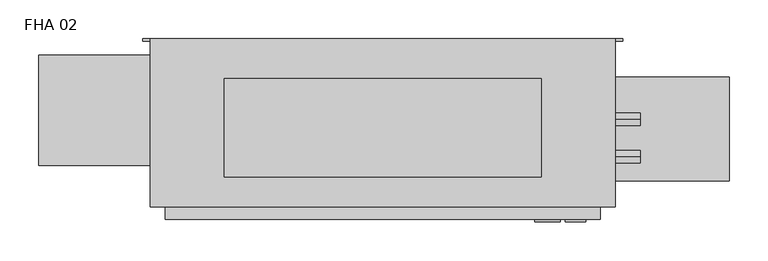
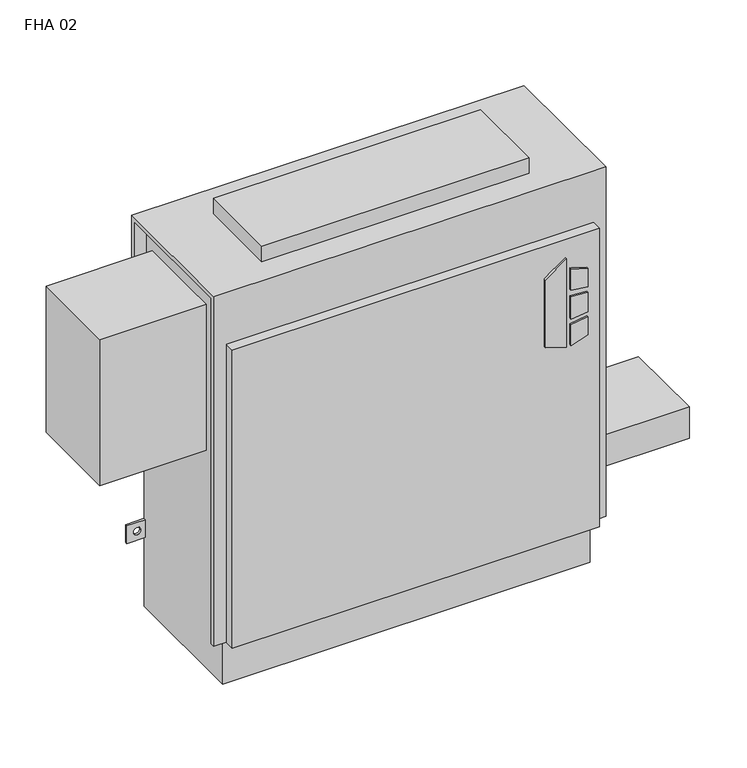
"""IFC4 building model written with IfcOpenShell, lengths in millimetres: proxy geometry, Vertical_Fan_Coil_Unit_-_FHA_-_IEC_-_2-Pipe_TS-FR_RH_2022 : FHA 02."""

from ifc_helpers import new_model, si_unit, point, frame, frame_2d, origin, place, context, project, spatial, polyline, circle_curve, trimmed, segment, composite_curve, outline, extrude, source, transform, mapped, element, save
from ifc_brep_helpers import plane_surface, revolved_surface, advanced_brep


def fha_02_b8cbda28(model_context):
    return source(origin(), model_context, "Body", "SolidModel", [
        extrude(outline(polyline([(391.6086829, 347.7368862), (381.6606126, 379.9102728), (523.831537, 379.9102728), (500.8095309, 347.7368862), (391.6086829, 347.7368862)])), frame((0.0, 9.525, 0.0), z_axis=(0.0, 1.0, 0.0), x_axis=(0.0, 0.0, 1.0)), (0.0, 0.0, 1.0), 3.175),
        extrude(outline(polyline([(470.6079683, 386.6686058), (467.4055757, 412.75), (496.6344168, 412.75), (504.6988318, 386.6686058), (470.6079683, 386.6686058)])), frame((0.0, 9.525, 0.0), z_axis=(0.0, 1.0, 0.0), x_axis=(0.0, 0.0, 1.0)), (0.0, 0.0, 1.0), 3.175),
        extrude(outline(polyline([(418.7444414, 412.75), (415.0789404, 386.6686058), (381.6606126, 386.6686058), (390.2948498, 412.75), (418.7444414, 412.75)])), frame((0.0, 9.525, 0.0), z_axis=(0.0, 1.0, 0.0), x_axis=(0.0, 0.0, 1.0)), (0.0, 0.0, 1.0), 3.175),
        extrude(outline(polyline([(458.0596028, 412.75), (460.3414292, 386.6686058), (424.4038806, 386.6686058), (427.1451456, 412.75), (458.0596028, 412.75)])), frame((0.0, 9.525, 0.0), z_axis=(0.0, 1.0, 0.0), x_axis=(0.0, 0.0, 1.0)), (0.0, 0.0, 1.0), 3.175),
        extrude(outline(composite_curve([segment(trimmed(circle_curve(frame_2d((495.3, 128.5875)), 9.525), [point((485.775, 128.5875))], [point((504.825, 128.5875))], False, "CARTESIAN"), True, "CONTINUOUS"), segment(trimmed(circle_curve(frame_2d((495.3, 128.5875)), 9.525), [point((504.825, 128.5875))], [point((485.775, 128.5875))], False, "CARTESIAN"), True, "CONTINUOUS")], self_intersect=False)), frame((0.0, 0.0, 101.6), z_axis=(0.0, 0.0, 1.0), x_axis=(1.0, 0.0, 0.0)), (0.0, 0.0, 1.0), 25.4),
        extrude(outline(polyline([(596.9, 195.2625), (596.9, 61.9125), (431.8, 61.9125), (431.8, 195.2625), (596.9, 195.2625)])), frame((0.0, 0.0, 127.0), z_axis=(0.0, 0.0, 1.0), x_axis=(1.0, 0.0, 0.0)), (0.0, 0.0, 1.0), 50.8),
        extrude(outline(polyline([(355.6, 193.675), (355.6, 66.675), (-50.8, 66.675), (-50.8, 193.675), (355.6, 193.675)])), frame((0.0, 0.0, 635.0), z_axis=(0.0, 0.0, 1.0), x_axis=(1.0, 0.0, 0.0)), (0.0, 0.0, 1.0), 25.4),
        extrude(outline(composite_curve([segment(trimmed(circle_curve(frame_2d((93.1926, 488.0102)), 7.9375), [point((93.1926, 480.0727))], [point((93.1926, 495.9477))], False, "CARTESIAN"), True, "CONTINUOUS"), segment(trimmed(circle_curve(frame_2d((93.1926, 488.0102)), 7.9375), [point((93.1926, 495.9477))], [point((93.1926, 480.0727))], False, "CARTESIAN"), True, "CONTINUOUS")], self_intersect=False)), frame((431.8, 0.0, 0.0), z_axis=(1.0, 0.0, 0.0), x_axis=(0.0, 1.0, 0.0)), (0.0, 0.0, 1.0), 50.8),
        extrude(outline(composite_curve([segment(trimmed(circle_curve(frame_2d((141.3002, 461.3402)), 7.9375), [point((141.3002, 453.4027))], [point((141.3002, 469.2777))], False, "CARTESIAN"), True, "CONTINUOUS"), segment(trimmed(circle_curve(frame_2d((141.3002, 461.3402)), 7.9375), [point((141.3002, 469.2777))], [point((141.3002, 453.4027))], False, "CARTESIAN"), True, "CONTINUOUS")], self_intersect=False)), frame((431.8, 0.0, 0.0), z_axis=(1.0, 0.0, 0.0), x_axis=(0.0, 1.0, 0.0)), (0.0, 0.0, 1.0), 50.8),
        extrude(outline(polyline([(-288.925, 223.266), (-127.0, 223.266), (-127.0, 81.534), (-288.925, 81.534), (-288.925, 223.266)])), frame((0.0, 0.0, 349.25), z_axis=(0.0, 0.0, 1.0), x_axis=(1.0, 0.0, 0.0)), (0.0, 0.0, 1.0), 234.95),
        advanced_brep(
        [(450.85, 244.475, 635.0), (-146.05, 244.475, 635.0), (-146.05, 28.575, 635.0), (450.85, 28.575, 635.0), (-127.0, 244.475, 0.0), (431.8, 244.475, 0.0), (431.8, 38.1, 0.0), (-127.0, 38.1, 0.0), (450.85, 244.475, 558.8), (431.8, 244.475, 558.8), (431.8, 244.475, 414.3375), (460.375, 244.475, 414.3375), (460.375, 244.475, 385.7625), (431.8, 244.475, 385.7625), (431.8, 244.475, 287.3375), (460.375, 244.475, 287.3375), (460.375, 244.475, 258.7625), (431.8, 244.475, 258.7625), (431.8, 244.475, 141.2875), (460.375, 244.475, 141.2875), (460.375, 244.475, 112.7125), (431.8, 244.475, 112.7125), (-127.0, 244.475, 112.7125), (-155.575, 244.475, 112.7125), (-155.575, 244.475, 141.2875), (-127.0, 244.475, 141.2875), (-127.0, 244.475, 258.7625), (-155.575, 244.475, 258.7625), (-155.575, 244.475, 287.3375), (-127.0, 244.475, 287.3375), (-127.0, 244.475, 385.7625), (-155.575, 244.475, 385.7625), (-155.575, 244.475, 414.3375), (-127.0, 244.475, 414.3375), (-127.0, 244.475, 558.8), (-146.05, 244.475, 558.8), (450.0626, 244.475, 127.0), (438.9374, 244.475, 127.0), (-134.1374, 244.475, 127.0), (-145.2626, 244.475, 127.0), (450.0626, 244.475, 273.05), (438.9374, 244.475, 273.05), (-134.1374, 244.475, 273.05), (-145.2626, 244.475, 273.05), (450.0626, 244.475, 400.05), (438.9374, 244.475, 400.05), (-134.1374, 244.475, 400.05), (-145.2626, 244.475, 400.05), (-146.05, 238.125, 558.8), (-146.05, 238.125, 628.65), (-146.05, 34.925, 628.65), (-146.05, 34.925, 73.025), (-146.05, 28.575, 73.025), (431.8, 12.7, 552.45), (-127.0, 12.7, 552.45), (-127.0, 12.7, 73.025), (431.8, 12.7, 73.025), (450.85, 28.575, 73.025), (450.85, 34.925, 73.025), (450.85, 34.925, 628.65), (450.85, 238.125, 628.65), (450.85, 238.125, 558.8), (-127.0, 28.575, 73.025), (-127.0, 28.575, 552.45), (431.8, 28.575, 552.45), (431.8, 28.575, 73.025), (-127.0, 34.925, 73.025), (-127.0, 38.1, 73.025), (431.8, 38.1, 73.025), (431.8, 34.925, 73.025), (431.8, 241.3, 112.7125), (431.8, 241.3, 141.2875), (431.8, 241.3, 258.7625), (431.8, 241.3, 287.3375), (431.8, 241.3, 385.7625), (431.8, 241.3, 414.3375), (431.8, 238.125, 558.8), (431.8, 238.125, 628.65), (431.8, 34.925, 628.65), (-127.0, 34.925, 628.65), (-127.0, 238.125, 628.65), (-127.0, 238.125, 558.8), (-127.0, 241.3, 414.3375), (-127.0, 241.3, 385.7625), (-127.0, 241.3, 287.3375), (-127.0, 241.3, 258.7625), (-127.0, 241.3, 141.2875), (-127.0, 241.3, 112.7125), (460.375, 241.3, 112.7125), (460.375, 241.3, 141.2875), (438.9374, 241.3, 127.0), (450.0626, 241.3, 127.0), (460.375, 241.3, 258.7625), (460.375, 241.3, 287.3375), (438.9374, 241.3, 273.05), (450.0626, 241.3, 273.05), (460.375, 241.3, 385.7625), (460.375, 241.3, 414.3375), (438.9374, 241.3, 400.05), (450.0626, 241.3, 400.05), (-155.575, 241.3, 141.2875), (-155.575, 241.3, 112.7125), (-145.2626, 241.3, 127.0), (-134.1374, 241.3, 127.0), (-155.575, 241.3, 287.3375), (-155.575, 241.3, 258.7625), (-145.2626, 241.3, 273.05), (-134.1374, 241.3, 273.05), (-155.575, 241.3, 414.3375), (-155.575, 241.3, 385.7625), (-145.2626, 241.3, 400.05), (-134.1374, 241.3, 400.05)],
        [
            (0, 1),
            (1, 2),
            (2, 3),
            (3, 0),
            (4, 5),
            (5, 6),
            (6, 7),
            (7, 4),
            (0, 8),
            (8, 9),
            (9, 10),
            (10, 11),
            (11, 12),
            (12, 13),
            (13, 14),
            (14, 15),
            (15, 16),
            (16, 17),
            (17, 18),
            (18, 19),
            (19, 20),
            (20, 21),
            (21, 5),
            (4, 22),
            (22, 23),
            (23, 24),
            (24, 25),
            (25, 26),
            (26, 27),
            (27, 28),
            (28, 29),
            (29, 30),
            (30, 31),
            (31, 32),
            (32, 33),
            (33, 34),
            (34, 35),
            (35, 1),
            (36, 37, circle_curve(frame((444.5, 244.475, 127.0), z_axis=(0.0, -1.0, 0.0), x_axis=(-1.0, 0.0, 0.0)), 5.5626)),
            (37, 36, circle_curve(frame((444.5, 244.475, 127.0), z_axis=(0.0, -1.0, 0.0), x_axis=(-1.0, 0.0, 0.0)), 5.5626)),
            (38, 39, circle_curve(frame((-139.7, 244.475, 127.0), z_axis=(0.0, -1.0, 0.0), x_axis=(-1.0, 0.0, 0.0)), 5.5626)),
            (39, 38, circle_curve(frame((-139.7, 244.475, 127.0), z_axis=(0.0, -1.0, 0.0), x_axis=(-1.0, 0.0, 0.0)), 5.5626)),
            (40, 41, circle_curve(frame((444.5, 244.475, 273.05), z_axis=(0.0, -1.0, 0.0), x_axis=(-1.0, 0.0, 0.0)), 5.5626)),
            (41, 40, circle_curve(frame((444.5, 244.475, 273.05), z_axis=(0.0, -1.0, 0.0), x_axis=(-1.0, 0.0, 0.0)), 5.5626)),
            (42, 43, circle_curve(frame((-139.7, 244.475, 273.05), z_axis=(0.0, -1.0, 0.0), x_axis=(-1.0, 0.0, 0.0)), 5.5626)),
            (43, 42, circle_curve(frame((-139.7, 244.475, 273.05), z_axis=(0.0, -1.0, 0.0), x_axis=(-1.0, 0.0, 0.0)), 5.5626)),
            (44, 45, circle_curve(frame((444.5, 244.475, 400.05), z_axis=(0.0, -1.0, 0.0), x_axis=(-1.0, 0.0, 0.0)), 5.5626)),
            (45, 44, circle_curve(frame((444.5, 244.475, 400.05), z_axis=(0.0, -1.0, 0.0), x_axis=(-1.0, 0.0, 0.0)), 5.5626)),
            (46, 47, circle_curve(frame((-139.7, 244.475, 400.05), z_axis=(0.0, -1.0, 0.0), x_axis=(-1.0, 0.0, 0.0)), 5.5626)),
            (47, 46, circle_curve(frame((-139.7, 244.475, 400.05), z_axis=(0.0, -1.0, 0.0), x_axis=(-1.0, 0.0, 0.0)), 5.5626)),
            (35, 48),
            (48, 49),
            (49, 50),
            (50, 51),
            (51, 52),
            (52, 2),
            (53, 54),
            (54, 55),
            (55, 56),
            (56, 53),
            (3, 57),
            (57, 58),
            (58, 59),
            (59, 60),
            (60, 61),
            (61, 8),
            (52, 62),
            (62, 63),
            (63, 64),
            (64, 65),
            (65, 57),
            (53, 64),
            (63, 54),
            (55, 62),
            (51, 66),
            (66, 67),
            (67, 68),
            (68, 69),
            (69, 58),
            (65, 56),
            (6, 68),
            (67, 7),
            (21, 70),
            (70, 71),
            (71, 18),
            (17, 72),
            (72, 73),
            (73, 14),
            (13, 74),
            (74, 75),
            (75, 10),
            (9, 76),
            (76, 77),
            (77, 78),
            (78, 69),
            (66, 79),
            (79, 80),
            (80, 81),
            (81, 34),
            (33, 82),
            (82, 83),
            (83, 30),
            (29, 84),
            (84, 85),
            (85, 26),
            (25, 86),
            (86, 87),
            (87, 22),
            (76, 61),
            (60, 77),
            (78, 59),
            (50, 79),
            (81, 48),
            (80, 49),
            (70, 88),
            (88, 89),
            (89, 71),
            (90, 91, circle_curve(frame((444.5, 241.3, 127.0), z_axis=(0.0, 1.0, 0.0), x_axis=(-1.0, 0.0, 0.0)), 5.5626)),
            (91, 90, circle_curve(frame((444.5, 241.3, 127.0), z_axis=(0.0, 1.0, 0.0), x_axis=(-1.0, 0.0, 0.0)), 5.5626)),
            (92, 93),
            (93, 73),
            (72, 92),
            (94, 95, circle_curve(frame((444.5, 241.3, 273.05), z_axis=(0.0, 1.0, 0.0), x_axis=(-1.0, 0.0, 0.0)), 5.5626)),
            (95, 94, circle_curve(frame((444.5, 241.3, 273.05), z_axis=(0.0, 1.0, 0.0), x_axis=(-1.0, 0.0, 0.0)), 5.5626)),
            (96, 97),
            (97, 75),
            (74, 96),
            (98, 99, circle_curve(frame((444.5, 241.3, 400.05), z_axis=(0.0, 1.0, 0.0), x_axis=(-1.0, 0.0, 0.0)), 5.5626)),
            (99, 98, circle_curve(frame((444.5, 241.3, 400.05), z_axis=(0.0, 1.0, 0.0), x_axis=(-1.0, 0.0, 0.0)), 5.5626)),
            (100, 101),
            (101, 87),
            (86, 100),
            (102, 103, circle_curve(frame((-139.7, 241.3, 127.0), z_axis=(0.0, 1.0, 0.0), x_axis=(-1.0, 0.0, 0.0)), 5.5626)),
            (103, 102, circle_curve(frame((-139.7, 241.3, 127.0), z_axis=(0.0, 1.0, 0.0), x_axis=(-1.0, 0.0, 0.0)), 5.5626)),
            (84, 104),
            (104, 105),
            (105, 85),
            (106, 107, circle_curve(frame((-139.7, 241.3, 273.05), z_axis=(0.0, 1.0, 0.0), x_axis=(-1.0, 0.0, 0.0)), 5.5626)),
            (107, 106, circle_curve(frame((-139.7, 241.3, 273.05), z_axis=(0.0, 1.0, 0.0), x_axis=(-1.0, 0.0, 0.0)), 5.5626)),
            (108, 109),
            (109, 83),
            (82, 108),
            (110, 111, circle_curve(frame((-139.7, 241.3, 400.05), z_axis=(0.0, 1.0, 0.0), x_axis=(-1.0, 0.0, 0.0)), 5.5626)),
            (111, 110, circle_curve(frame((-139.7, 241.3, 400.05), z_axis=(0.0, 1.0, 0.0), x_axis=(-1.0, 0.0, 0.0)), 5.5626)),
            (89, 19),
            (88, 20),
            (16, 92),
            (93, 15),
            (12, 96),
            (97, 11),
            (24, 100),
            (101, 23),
            (105, 27),
            (104, 28),
            (32, 108),
            (109, 31),
            (90, 37),
            (36, 91),
            (102, 39),
            (38, 103),
            (94, 41),
            (40, 95),
            (106, 43),
            (42, 107),
            (98, 45),
            (44, 99),
            (110, 47),
            (46, 111),
        ],
        [
            plane_surface(frame((-146.05, 244.475, 635.0), z_axis=(0.0, 0.0, 1.0), x_axis=(-1.0, 0.0, 0.0))),
            plane_surface(frame((-146.05, 244.475, 0.0), z_axis=(0.0, 0.0, -1.0), x_axis=(1.0, 0.0, 0.0))),
            plane_surface(frame((450.85, 244.475, 635.0), z_axis=(0.0, 1.0, 0.0), x_axis=(0.0, 0.0, -1.0))),
            plane_surface(frame((-146.05, 244.475, 635.0), z_axis=(-1.0, 0.0, 0.0), x_axis=(0.0, 0.0, -1.0))),
            plane_surface(frame((-146.05, 12.7, 635.0), z_axis=(0.0, -1.0, 0.0), x_axis=(0.0, 0.0, -1.0))),
            plane_surface(frame((450.85, 12.7, 635.0), z_axis=(1.0, 0.0, 0.0), x_axis=(0.0, 0.0, -1.0))),
            plane_surface(frame((-146.05, 28.575, 635.0), z_axis=(0.0, -1.0, 0.0), x_axis=(1.0, 0.0, 0.0))),
            plane_surface(frame((-146.05, 28.575, 552.45), z_axis=(0.0, 0.0, 1.0), x_axis=(1.0, 0.0, 0.0))),
            plane_surface(frame((-146.05, 12.7, 73.025), z_axis=(0.0, 0.0, -1.0), x_axis=(1.0, 0.0, 0.0))),
            plane_surface(frame((-146.05, 38.1, 73.025), z_axis=(0.0, -1.0, 0.0), x_axis=(1.0, 0.0, 0.0))),
            plane_surface(frame((431.8, 28.575, 73.025), z_axis=(1.0, 0.0, 0.0), x_axis=(0.0, -1.0, 0.0))),
            plane_surface(frame((-127.0, 28.575, 552.45), z_axis=(-1.0, 0.0, 0.0), x_axis=(0.0, -1.0, 0.0))),
            plane_surface(frame((431.8, 244.475, 0.0), z_axis=(1.0, 0.0, 0.0), x_axis=(0.0, -1.0, 0.0))),
            plane_surface(frame((-127.0, 244.475, 73.025), z_axis=(-1.0, 0.0, 0.0), x_axis=(0.0, -1.0, 0.0))),
            plane_surface(frame((431.8, 238.125, 628.65), z_axis=(0.0, -1.0, 0.0), x_axis=(1.0, 0.0, 0.0))),
            plane_surface(frame((431.8, 238.125, 558.8), z_axis=(0.0, 0.0, -1.0), x_axis=(1.0, 0.0, 0.0))),
            plane_surface(frame((431.8, 34.925, 73.025), z_axis=(0.0, 1.0, 0.0), x_axis=(1.0, 0.0, 0.0))),
            plane_surface(frame((431.8, 34.925, 628.65), z_axis=(0.0, 0.0, -1.0), x_axis=(1.0, 0.0, 0.0))),
            plane_surface(frame((-127.0, 34.925, 628.65), z_axis=(0.0, 1.0, 0.0), x_axis=(-1.0, 0.0, 0.0))),
            plane_surface(frame((-127.0, 244.475, 558.8), z_axis=(0.0, 0.0, -1.0), x_axis=(-1.0, 0.0, 0.0))),
            plane_surface(frame((-127.0, 238.125, 558.8), z_axis=(0.0, -1.0, 0.0), x_axis=(-1.0, 0.0, 0.0))),
            plane_surface(frame((-127.0, 238.125, 628.65), z_axis=(0.0, 0.0, -1.0), x_axis=(-1.0, 0.0, 0.0))),
            plane_surface(frame((460.375, 241.3, 141.2875), z_axis=(0.0, -1.0, 0.0), x_axis=(-1.0, 0.0, 0.0))),
            plane_surface(frame((431.8, 244.475, 141.2875), z_axis=(0.0, 0.0, 1.0), x_axis=(0.0, -1.0, 0.0))),
            plane_surface(frame((460.375, 244.475, 141.2875), z_axis=(1.0, 0.0, 0.0), x_axis=(0.0, -1.0, 0.0))),
            plane_surface(frame((460.375, 244.475, 112.7125), z_axis=(0.0, 0.0, -1.0), x_axis=(0.0, -1.0, 0.0))),
            plane_surface(frame((460.375, 244.475, 258.7625), z_axis=(0.0, 0.0, -1.0), x_axis=(0.0, -1.0, 0.0))),
            plane_surface(frame((431.8, 244.475, 287.3375), z_axis=(0.0, 0.0, 1.0), x_axis=(0.0, -1.0, 0.0))),
            plane_surface(frame((460.375, 244.475, 287.3375), z_axis=(1.0, 0.0, 0.0), x_axis=(0.0, -1.0, 0.0))),
            plane_surface(frame((460.375, 244.475, 385.7625), z_axis=(0.0, 0.0, -1.0), x_axis=(0.0, -1.0, 0.0))),
            plane_surface(frame((431.8, 244.475, 414.3375), z_axis=(0.0, 0.0, 1.0), x_axis=(0.0, -1.0, 0.0))),
            plane_surface(frame((460.375, 244.475, 414.3375), z_axis=(1.0, 0.0, 0.0), x_axis=(0.0, -1.0, 0.0))),
            plane_surface(frame((-155.575, 244.475, 141.2875), z_axis=(0.0, 0.0, 1.0), x_axis=(0.0, -1.0, 0.0))),
            plane_surface(frame((-127.0, 244.475, 112.7125), z_axis=(0.0, 0.0, -1.0), x_axis=(0.0, -1.0, 0.0))),
            plane_surface(frame((-155.575, 244.475, 112.7125), z_axis=(-1.0, 0.0, 0.0), x_axis=(0.0, -1.0, 0.0))),
            plane_surface(frame((-127.0, 244.475, 258.7625), z_axis=(0.0, 0.0, -1.0), x_axis=(0.0, -1.0, 0.0))),
            plane_surface(frame((-155.575, 244.475, 258.7625), z_axis=(-1.0, 0.0, 0.0), x_axis=(0.0, -1.0, 0.0))),
            plane_surface(frame((-155.575, 244.475, 287.3375), z_axis=(0.0, 0.0, 1.0), x_axis=(0.0, -1.0, 0.0))),
            plane_surface(frame((-155.575, 244.475, 414.3375), z_axis=(0.0, 0.0, 1.0), x_axis=(0.0, -1.0, 0.0))),
            plane_surface(frame((-127.0, 244.475, 385.7625), z_axis=(0.0, 0.0, -1.0), x_axis=(0.0, -1.0, 0.0))),
            plane_surface(frame((-155.575, 244.475, 385.7625), z_axis=(-1.0, 0.0, 0.0), x_axis=(0.0, -1.0, 0.0))),
            revolved_surface(polyline([(438.9374, 241.3, 127.0), (438.9374, 244.475, 127.0)]), (444.5, 244.475, 127.0), (0.0, -1.0, 0.0)),
            revolved_surface(polyline([(-145.2626, 241.3, 127.0), (-145.2626, 244.475, 127.0)]), (-139.7, 244.475, 127.0), (0.0, -1.0, 0.0)),
            revolved_surface(polyline([(438.9374, 241.3, 273.05), (438.9374, 244.475, 273.05)]), (444.5, 244.475, 273.05), (0.0, -1.0, 0.0)),
            revolved_surface(polyline([(-145.2626, 241.3, 273.05), (-145.2626, 244.475, 273.05)]), (-139.7, 244.475, 273.05), (0.0, -1.0, 0.0)),
            revolved_surface(polyline([(438.9374, 241.3, 400.05), (438.9374, 244.475, 400.05)]), (444.5, 244.475, 400.05), (0.0, -1.0, 0.0)),
            revolved_surface(polyline([(-145.2626, 241.3, 400.05), (-145.2626, 244.475, 400.05)]), (-139.7, 244.475, 400.05), (0.0, -1.0, 0.0)),
        ],
        [
            (0, [[1, 2, 3, 4]]),
            (1, [[5, 6, 7, 8]]),
            (2, [[-1, 9, 10, 11, 12, 13, 14, 15, 16, 17, 18, 19, 20, 21, 22, 23, -5, 24, 25, 26, 27, 28, 29, 30, 31, 32, 33, 34, 35, 36, 37, 38], [39, 40], [41, 42], [43, 44], [45, 46], [47, 48], [49, 50]]),
            (3, [[-2, -38, 51, 52, 53, 54, 55, 56]]),
            (4, [[57, 58, 59, 60]]),
            (5, [[-4, 61, 62, 63, 64, 65, 66, -9]]),
            (6, [[-3, -56, 67, 68, 69, 70, 71, -61]]),
            (7, [[-57, 72, -69, 73]]),
            (8, [[-59, 74, -67, -55, 75, 76, 77, 78, 79, -62, -71, 80]]),
            (9, [[-7, 81, -77, 82]]),
            (10, [[-70, -72, -60, -80]]),
            (11, [[-68, -74, -58, -73]]),
            (12, [[-6, -23, 83, 84, 85, -19, 86, 87, 88, -15, 89, 90, 91, -11, 92, 93, 94, 95, -78, -81]]),
            (13, [[-8, -82, -76, 96, 97, 98, 99, -36, 100, 101, 102, -32, 103, 104, 105, -28, 106, 107, 108, -24]]),
            (14, [[-93, 109, -65, 110]]),
            (15, [[-92, -10, -66, -109]]),
            (16, [[-95, 111, -63, -79]]),
            (17, [[-94, -110, -64, -111]]),
            (18, [[-96, -75, -54, 112]]),
            (19, [[-99, 113, -51, -37]]),
            (20, [[-98, 114, -52, -113]]),
            (21, [[-97, -112, -53, -114]]),
            (22, [[115, 116, 117, -84], [118, 119]]),
            (22, [[120, 121, -87, 122], [123, 124]]),
            (22, [[125, 126, -90, 127], [128, 129]]),
            (22, [[130, 131, -107, 132], [133, 134]]),
            (22, [[135, 136, 137, -104], [138, 139]]),
            (22, [[140, 141, -101, 142], [143, 144]]),
            (23, [[-117, 145, -20, -85]]),
            (24, [[-116, 146, -21, -145]]),
            (25, [[-115, -83, -22, -146]]),
            (26, [[-122, -86, -18, 147]]),
            (27, [[-121, 148, -16, -88]]),
            (28, [[-120, -147, -17, -148]]),
            (29, [[-127, -89, -14, 149]]),
            (30, [[-126, 150, -12, -91]]),
            (31, [[-125, -149, -13, -150]]),
            (32, [[-132, -106, -27, 151]]),
            (33, [[-131, 152, -25, -108]]),
            (34, [[-130, -151, -26, -152]]),
            (35, [[-137, 153, -29, -105]]),
            (36, [[-136, 154, -30, -153]]),
            (37, [[-135, -103, -31, -154]]),
            (38, [[-142, -100, -35, 155]]),
            (39, [[-141, 156, -33, -102]]),
            (40, [[-140, -155, -34, -156]]),
            (41, [[157, -39, 158, -118]]),
            (41, [[-157, -119, -158, -40]]),
            (42, [[159, -41, 160, -133]]),
            (42, [[-159, -134, -160, -42]]),
            (43, [[161, -43, 162, -123]]),
            (43, [[-161, -124, -162, -44]]),
            (44, [[163, -45, 164, -138]]),
            (44, [[-163, -139, -164, -46]]),
            (45, [[165, -47, 166, -128]]),
            (45, [[-165, -129, -166, -48]]),
            (46, [[167, -49, 168, -143]]),
            (46, [[-167, -144, -168, -50]]),
        ],
    ),
    ])


if __name__ == "__main__":
    model = new_model("IFC4")
    model_context = context("Model", 3, world=origin())
    ifc_project = project(units=[si_unit("LENGTHUNIT", "METRE", prefix="MILLI")], contexts=[model_context])
    site = spatial("IfcSite", under=ifc_project)
    building = spatial("IfcBuilding", under=site)
    placement = place(None, origin())
    fha_02_shape = fha_02_b8cbda28(model_context)
    element("IfcBuildingElementProxy", 1, Name="Vertical_Fan_Coil_Unit_-_FHA_-_IEC_-_2-Pipe_TS-FR_RH_2022 : FHA 02", ObjectType="Vertical_Fan_Coil_Unit_-_FHA_-_IEC_-_2-Pipe_TS-FR_RH_2022 : FHA 02", at=placement, inside=building, context=model_context, shape_type="MappedRepresentation", body=[
        mapped(fha_02_shape, transform((0.0, 0.0, 0.0), x_axis=(1.0, 0.0, 0.0), y_axis=(0.0, 1.0, 0.0), z_axis=(0.0, 0.0, 1.0))),
    ])
    save(model, "model.ifc")
